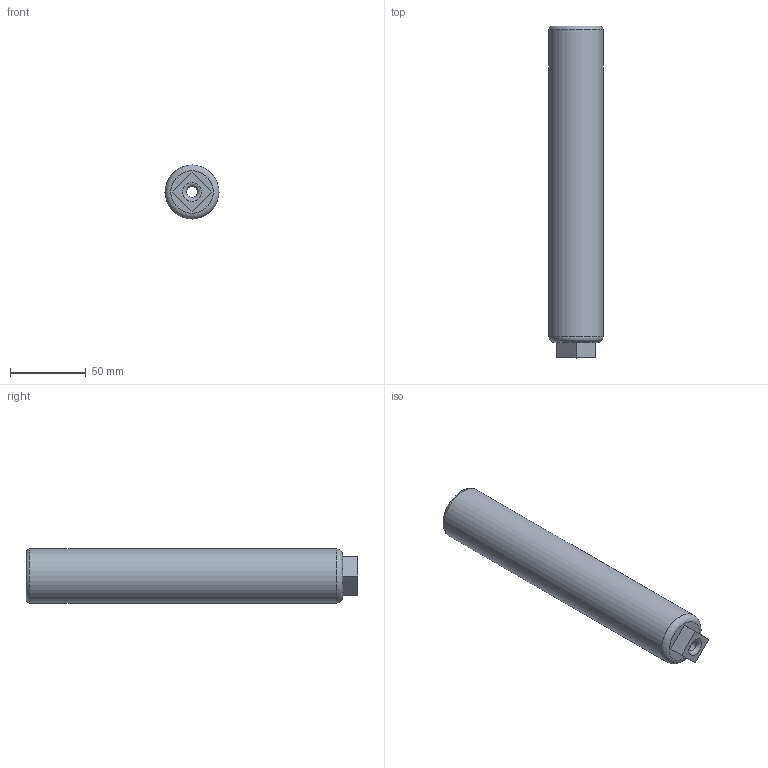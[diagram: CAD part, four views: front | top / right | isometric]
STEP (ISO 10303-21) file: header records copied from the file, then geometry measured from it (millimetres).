
FILE_DESCRIPTION(/* description */ (''),/* implementation_level */ '2;1');
FILE_NAME(/* name */ 'C:/Users/Owner/Desktop/liberator suppressed/STEP Files/22 Caliber versions/22 Cal Liberator Suppressor can 8.6 inch.step',/* time_stamp */ '2020-04-23T22:19:32-04:00',/* author */ (''),/* organization */ (''),/* preprocessor_version */ 'ST-DEVELOPER v18.1',/* originating_system */ 'Autodesk Translation Framework v9.2.0.1227',/* authorisation */ '');
FILE_SCHEMA (('AUTOMOTIVE_DESIGN { 1 0 10303 214 3 1 1 }'));
Length unit declared in the file: inch
Products named in the file (1): 22 cal lib sup 8.6 inch
Bounding box: 35.56 x 218.44 x 35.56 mm (x, y, z)
Volume: 131319.3 mm3; surface area: 42051.5 mm2
Topology: 1 solids, 1 shells, 48 faces, 134 edges, 90 vertices
Faces by surface type: cylinder 32, plane 9, torus 5, bspline 2
Full cylindrical faces by diameter (mm): 7.112 x1, 22.288 x13, 25.4 x14, 35.56 x1
Entity records: 4494 total; most frequent: CARTESIAN_POINT 3309, ORIENTED_EDGE 268, DIRECTION 199, EDGE_CURVE 134, VERTEX_POINT 90, AXIS2_PLACEMENT_3D 78, B_SPLINE_CURVE_WITH_KNOTS 60, EDGE_LOOP 52
